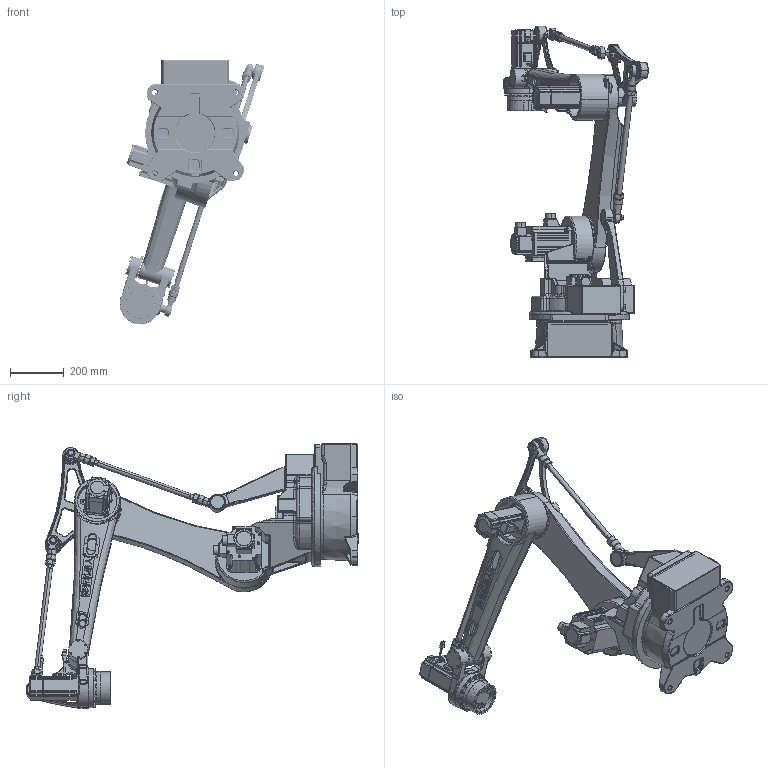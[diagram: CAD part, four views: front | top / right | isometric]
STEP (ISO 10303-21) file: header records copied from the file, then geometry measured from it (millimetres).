
FILE_DESCRIPTION (( 'STEP AP214' ), '1' );
FILE_NAME ('hz-140.STEP', '2019-05-10T07:03:01', ( 'User' ), ( 'china' ), 'SwSTEP 2.0', 'SolidWorks 2014', '' );
FILE_SCHEMA (( 'AUTOMOTIVE_DESIGN' ));
Length unit declared in the file: millimetre
Products named in the file (9): JZJ10B-140-06; JZJ10B-140-05; JZJ10B-140-03; JZJ10B-140-02; JZJ10B-140-01; hz-140; JZJ10B-140-0401; JZJ10B-140-07; JZJ10B-140-08
Assembly tree (8 placements, depth 2):
  hz-140
    JZJ10B-140-01
    JZJ10B-140-02
    JZJ10B-140-03
    JZJ10B-140-05
    JZJ10B-140-06
    JZJ10B-140-08
    JZJ10B-140-07
    JZJ10B-140-0401
Bounding box: 535.05 x 1229.77 x 981.1 mm (x, y, z)
Volume: 29516103.8 mm3; surface area: 2833107.1 mm2
Topology: 7 solids, 53 shells, 5360 faces, 14603 edges, 8968 vertices
Faces by surface type: plane 2198, bspline 1478, cylinder 1444, cone 240
Entity records: 247303 total; most frequent: CARTESIAN_POINT 122335, ORIENTED_EDGE 28633, DIRECTION 22938, EDGE_CURVE 14318, VERTEX_POINT 8968, AXIS2_PLACEMENT_3D 8293, VECTOR 6352, LINE 6352
